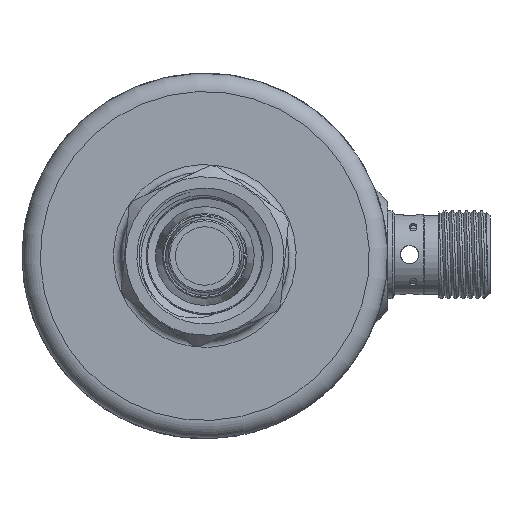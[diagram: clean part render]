
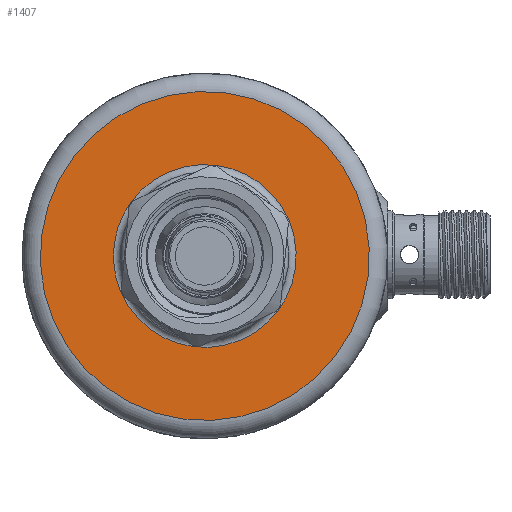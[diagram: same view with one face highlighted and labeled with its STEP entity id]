
A CAD part, front view. The second image highlights one B-rep face of the part: STEP entity #1407.
In plain terms, the highlighted planar face has unit normal (0, -1, 0) as drawn and (0, 0, -1) by its records, which use the part's own axes.
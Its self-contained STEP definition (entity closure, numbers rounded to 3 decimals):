
#564 = PLANE ( 'NONE',  #10276 ) ;
#1099 = DIRECTION ( 'NONE',  ( 0., 0., -1. ) ) ;
#1358 = FACE_BOUND ( 'NONE', #4289, .T. ) ;
#1377 = CARTESIAN_POINT ( 'NONE',  ( 0., 0., 44. ) ) ;
#1407 = ADVANCED_FACE ( 'NONE', ( #10556, #1358 ), #564, .F. ) ;
#1485 = DIRECTION ( 'NONE',  ( 1., 0., 0. ) ) ;
#2341 = ORIENTED_EDGE ( 'NONE', *, *, #2545, .T. ) ;
#2545 = EDGE_CURVE ( 'NONE', #2783, #2783, #11090, .T. ) ;
#2574 = DIRECTION ( 'NONE',  ( 0., 0., 1. ) ) ;
#2644 = DIRECTION ( 'NONE',  ( 1., 0., 0. ) ) ;
#2783 = VERTEX_POINT ( 'NONE', #10776 ) ;
#4289 = EDGE_LOOP ( 'NONE', ( #2341 ) ) ;
#4787 = AXIS2_PLACEMENT_3D ( 'NONE', #10172, #1099, #9183 ) ;
#5472 = EDGE_LOOP ( 'NONE', ( #9582 ) ) ;
#6644 = VERTEX_POINT ( 'NONE', #8699 ) ;
#7066 = AXIS2_PLACEMENT_3D ( 'NONE', #1377, #2574, #2644 ) ;
#8368 = CARTESIAN_POINT ( 'NONE',  ( 0., 0., 44. ) ) ;
#8699 = CARTESIAN_POINT ( 'NONE',  ( 22.5, 0., 44. ) ) ;
#9183 = DIRECTION ( 'NONE',  ( 1., 0., 0. ) ) ;
#9582 = ORIENTED_EDGE ( 'NONE', *, *, #10083, .T. ) ;
#10083 = EDGE_CURVE ( 'NONE', #6644, #6644, #11324, .T. ) ;
#10172 = CARTESIAN_POINT ( 'NONE',  ( 0., 0., 44. ) ) ;
#10276 = AXIS2_PLACEMENT_3D ( 'NONE', #8368, #11486, #1485 ) ;
#10556 = FACE_OUTER_BOUND ( 'NONE', #5472, .T. ) ;
#10776 = CARTESIAN_POINT ( 'NONE',  ( 12.5, 0., 44. ) ) ;
#11090 = CIRCLE ( 'NONE', #7066, 12.5 ) ;
#11324 = CIRCLE ( 'NONE', #4787, 22.5 ) ;
#11486 = DIRECTION ( 'NONE',  ( 0., 0., 1. ) ) ;
